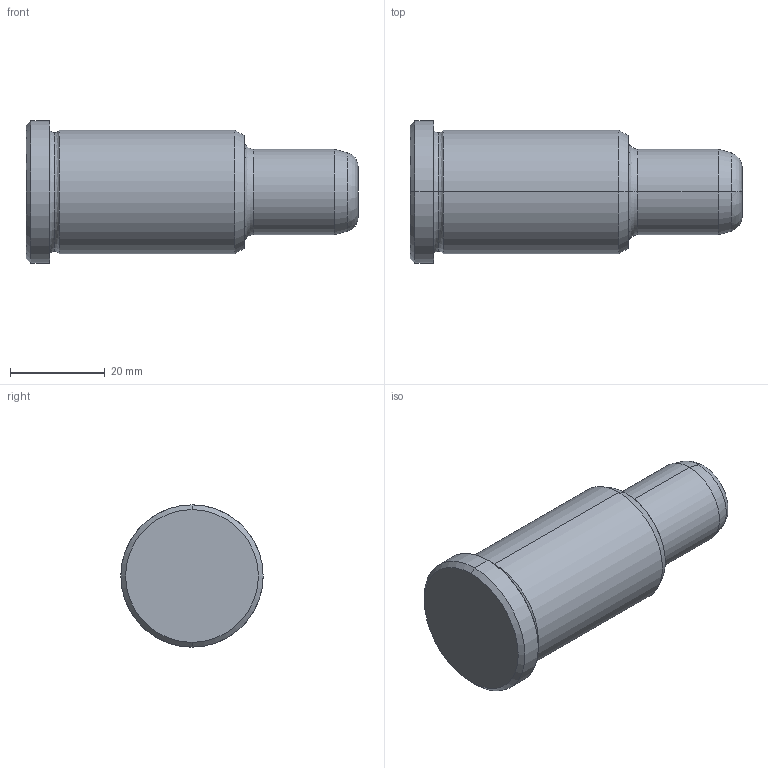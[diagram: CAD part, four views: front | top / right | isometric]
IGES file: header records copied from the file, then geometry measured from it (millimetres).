
Start section: START RECORD GO HERE.
Global section: file name: 351-18X46X70.igs; native system: DASSAULT SYSTEMES CATIA V5 R20 - www.3ds.com; preprocessor: CATIA Version 5 Release 20 ; author: Utente; organization: NB04-ASUS; date: 20210819.143954; units: millimetre
Bounding box: 70 x 30 x 30 mm (x, y, z)
Surface area: 6318.7 mm2 (no closed solid volume)
Topology: 0 solids, 0 shells, 24 faces, 140 edges, 140 vertices
Faces by surface type: revolution 20, plane 4
